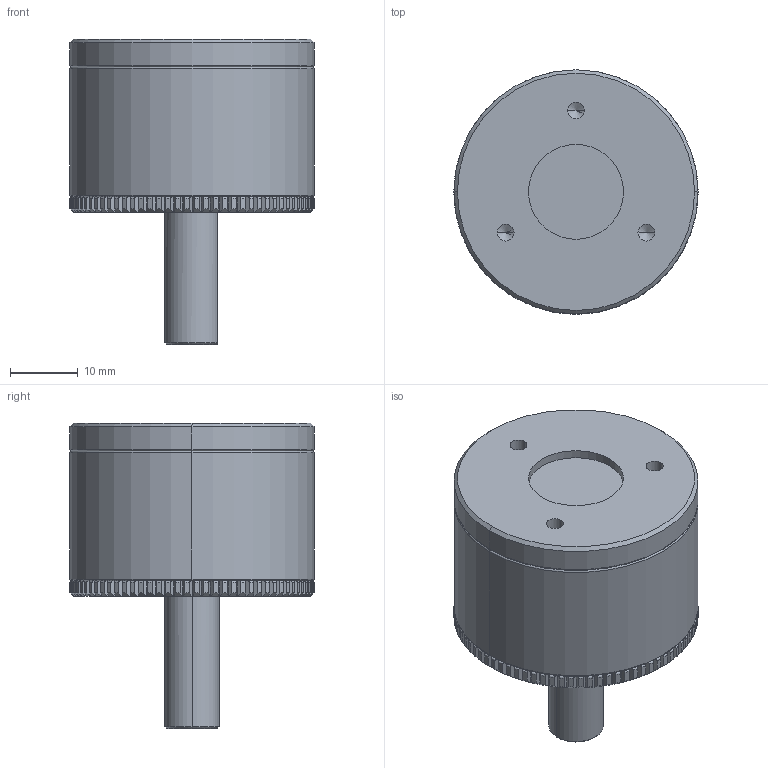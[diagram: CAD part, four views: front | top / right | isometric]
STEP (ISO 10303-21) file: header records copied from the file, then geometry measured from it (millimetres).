
FILE_DESCRIPTION (( 'STEP AP203' ), '1' );
FILE_NAME ('MTL0.5-8mm CUSTOMER SOLID.STEP', '2014-06-19T19:13:56', ( '' ), ( '' ), 'SwSTEP 2.0', 'SolidWorks 2014', '' );
FILE_SCHEMA (( 'CONFIG_CONTROL_DESIGN' ));
Length unit declared in the file: millimetre
Products named in the file (1): MTL0.5-8mm CUSTOMER SOLID
Bounding box: 36 x 36 x 45 mm (x, y, z)
Volume: 26315.3 mm3; surface area: 6084.4 mm2
Topology: 1 solids, 1 shells, 617 faces, 1647 edges, 1032 vertices
Faces by surface type: plane 330, cylinder 106, cone 95, torus 86
Entity records: 19745 total; most frequent: CARTESIAN_POINT 4571, ORIENTED_EDGE 3270, DIRECTION 3098, EDGE_CURVE 1635, AXIS2_PLACEMENT_3D 1167, VERTEX_POINT 1032, LINE 764, VECTOR 764
